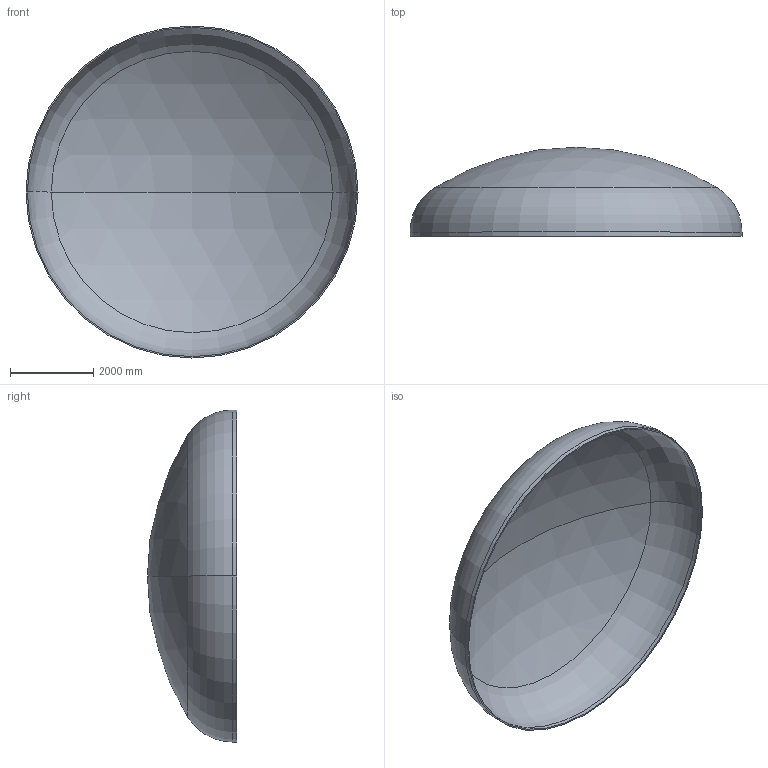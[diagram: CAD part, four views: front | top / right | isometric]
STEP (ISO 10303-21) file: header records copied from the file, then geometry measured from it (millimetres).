
FILE_DESCRIPTION (( 'STEP AP203' ), '1' );
FILE_NAME ('DIN 28013 Korbbogenform_-_Boden DIN 28013 - 8000 x 100 - I - s=31.step', '2016-07-04T11:00:22', ( '' ), ( '' ), 'SwSTEP 2.0', 'SolidWorks 2013', '' );
FILE_SCHEMA (( 'CONFIG_CONTROL_DESIGN' ));
Length unit declared in the file: millimetre
Products named in the file (1): DIN 28013 Korbbogenform_-_Boden DIN 28013 - 8000 x 100 - I - s=31
Bounding box: 8000 x 2146.16 x 8000 mm (x, y, z)
Volume: 2224144931 mm3; surface area: 144271272.3 mm2
Topology: 1 solids, 1 shells, 13 faces, 24 edges, 14 vertices
Faces by surface type: torus 4, cylinder 4, sphere 4, plane 1
Entity records: 407 total; most frequent: DIRECTION 72, CARTESIAN_POINT 52, ORIENTED_EDGE 48, AXIS2_PLACEMENT_3D 34, EDGE_CURVE 24, CIRCLE 20, VERTEX_POINT 14, EDGE_LOOP 14
